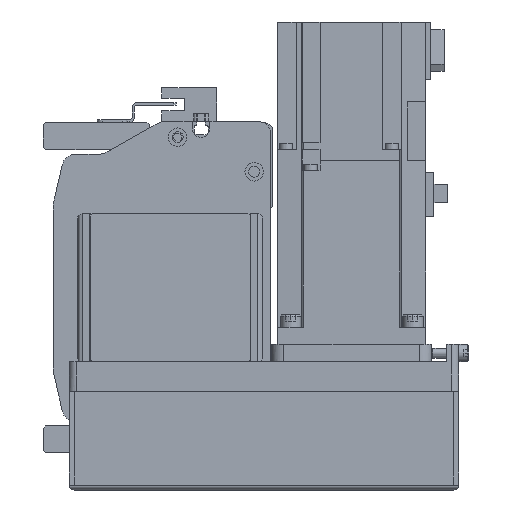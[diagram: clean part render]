
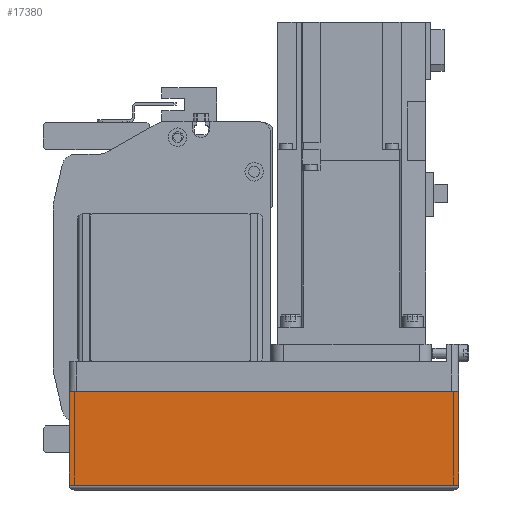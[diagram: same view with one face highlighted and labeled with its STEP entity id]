
A CAD part, left-side view. The second image highlights one B-rep face of the part: STEP entity #17380.
In plain terms, the highlighted planar face has unit normal (-1, 0, 0) as drawn and (0, 1, 0) by its records, which use the part's own axes.
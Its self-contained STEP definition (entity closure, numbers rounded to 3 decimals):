
#2712=ORIENTED_EDGE('',*,*,#6977,.F.);
#2713=ORIENTED_EDGE('',*,*,#7046,.F.);
#2714=ORIENTED_EDGE('',*,*,#6994,.T.);
#2715=ORIENTED_EDGE('',*,*,#6969,.T.);
#6969=EDGE_CURVE('',#9288,#9287,#11061,.T.);
#6977=EDGE_CURVE('',#9295,#9287,#11069,.T.);
#6994=EDGE_CURVE('',#9305,#9288,#11082,.T.);
#7046=EDGE_CURVE('',#9305,#9295,#11111,.T.);
#9287=VERTEX_POINT('',#26684);
#9288=VERTEX_POINT('',#26686);
#9295=VERTEX_POINT('',#26703);
#9305=VERTEX_POINT('',#26734);
#11061=LINE('',#26685,#12681);
#11069=LINE('',#26702,#12689);
#11082=LINE('',#26733,#12702);
#11111=LINE('',#26828,#12731);
#12681=VECTOR('',#21357,1000.);
#12689=VECTOR('',#21369,1000.);
#12702=VECTOR('',#21398,1000.);
#12731=VECTOR('',#21515,1000.);
#14178=EDGE_LOOP('',(#2712,#2713,#2714,#2715));
#15498=FACE_BOUND('',#14178,.T.);
#16647=PLANE('',#18645);
#17380=ADVANCED_FACE('',(#15498),#16647,.T.);
#18645=AXIS2_PLACEMENT_3D('',#26827,#21513,#21514);
#21357=DIRECTION('',(1.,0.,0.));
#21369=DIRECTION('',(0.,0.,1.));
#21398=DIRECTION('',(0.,0.,1.));
#21513=DIRECTION('',(0.,1.,0.));
#21514=DIRECTION('',(0.,0.,1.));
#21515=DIRECTION('',(1.,0.,0.));
#26684=CARTESIAN_POINT('',(0.,39.,-12.1));
#26685=CARTESIAN_POINT('',(-158.,39.,-12.1));
#26686=CARTESIAN_POINT('',(-158.,39.,-12.1));
#26702=CARTESIAN_POINT('',(0.,39.,-50.));
#26703=CARTESIAN_POINT('',(0.,39.,-50.));
#26733=CARTESIAN_POINT('',(-158.,39.,-50.));
#26734=CARTESIAN_POINT('',(-158.,39.,-50.));
#26827=CARTESIAN_POINT('',(-158.,39.,-50.));
#26828=CARTESIAN_POINT('',(-158.,39.,-50.));
